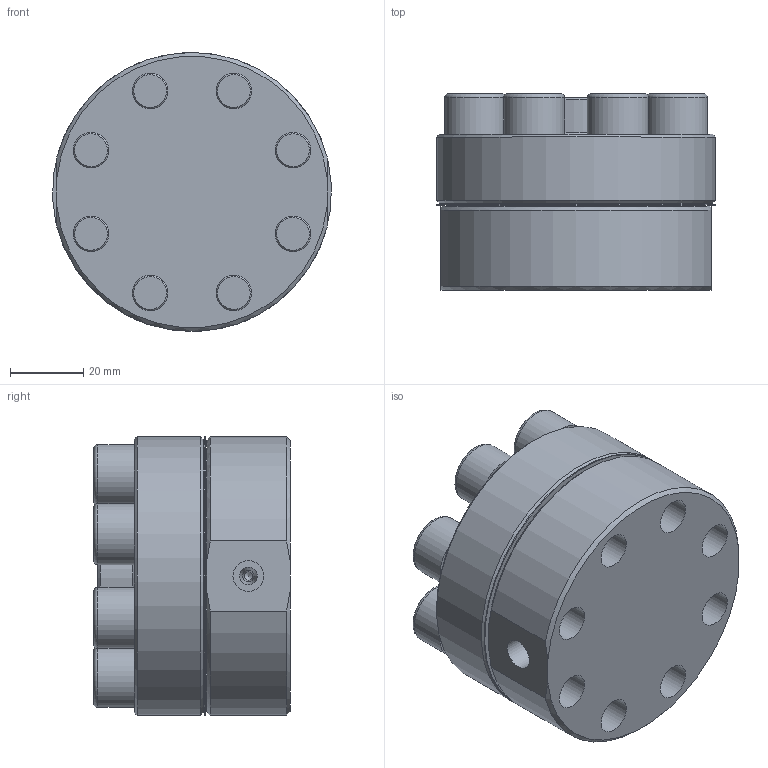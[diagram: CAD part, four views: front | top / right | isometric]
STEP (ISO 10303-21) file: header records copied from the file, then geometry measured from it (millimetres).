
FILE_DESCRIPTION(/* description */ (''),/* implementation_level */ '2;1');
FILE_NAME(/* name */ 'Z:\Models\Instrument Series\EB1HP1\H10Px_U10Lx_External_R8.stp',/* time_stamp */ '2016-06-02T08:33:42-04:00',/* author */ ('Owner'),/* organization */ (''),/* preprocessor_version */ 'ST-DEVELOPER v15.6',/* originating_system */ 'Autodesk Inventor 2015',/* authorisation */ '');
FILE_SCHEMA (('CONFIG_CONTROL_DESIGN'));
Length unit declared in the file: inch
Products named in the file (7): H10P External; EHP RC SB8; EHP 7(_FS)16(_DQ) Bolts; O-27; O-29; ANSI B18.3 - 7_16-14 UNC - 1.25(31); EHP SB8
Bounding box: 76.13 x 53.66 x 76.2 mm (x, y, z)
Volume: 205193 mm3; surface area: 65614.5 mm2
Topology: 13 solids, 13 shells, 214 faces, 501 edges, 326 vertices
Faces by surface type: plane 97, cylinder 61, cone 33, torus 23
Full cylindrical faces by diameter (mm): 0.762 x1, 2.381 x3, 3.251 x3, 8.433 x3, 9.728 x8, 11.112 x8, 11.506 x16, 16.662 x8, 30.48 x1, 31.318 x1, 36.373 x2, 41.377 x1, 76.2 x2
Entity records: 3009 total; most frequent: DIRECTION 532, CARTESIAN_POINT 501, ORIENTED_EDGE 354, AXIS2_PLACEMENT_3D 248, EDGE_LOOP 234, EDGE_CURVE 177, VERTEX_POINT 151, FACE_BOUND 125
